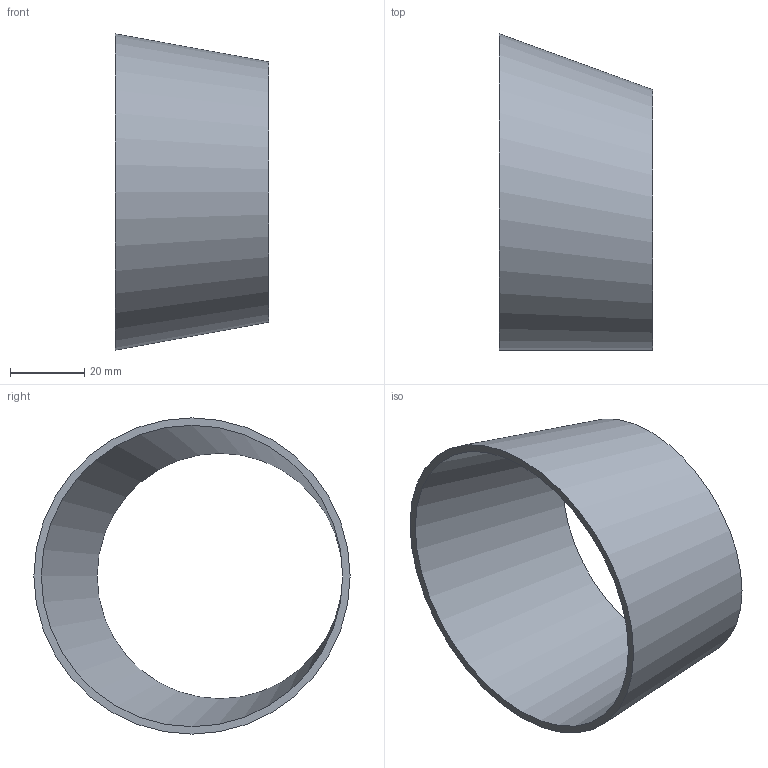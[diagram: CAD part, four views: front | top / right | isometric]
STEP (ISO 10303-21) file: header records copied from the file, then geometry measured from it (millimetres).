
FILE_DESCRIPTION(('FreeCAD Model'),'2;1');
FILE_NAME( '/home/martin/Documents/proyect/accesorios/stp/red-exc_DN80-65.step', '2017-12-31T13:04:26',('Author'),(''), 'Open CASCADE STEP processor 6.8','FreeCAD','Unknown');
FILE_SCHEMA(('AUTOMOTIVE_DESIGN_CC2 { 1 2 10303 214 -1 1 5 4 }'));
Length unit declared in the file: millimetre
Products named in the file (1): red-exc_DN80-65
Bounding box: 41.2 x 85 x 85 mm (x, y, z)
Volume: 19544.5 mm3; surface area: 20967.8 mm2
Topology: 1 solids, 1 shells, 4 faces, 6 edges, 4 vertices
Faces by surface type: bspline 2, plane 2
Entity records: 299 total; most frequent: CARTESIAN_POINT 139, DIRECTION 26, ORIENTED_EDGE 12, PCURVE 12, DEFINITIONAL_REPRESENTATION 12, CIRCLE 8, LINE 8, VECTOR 8
